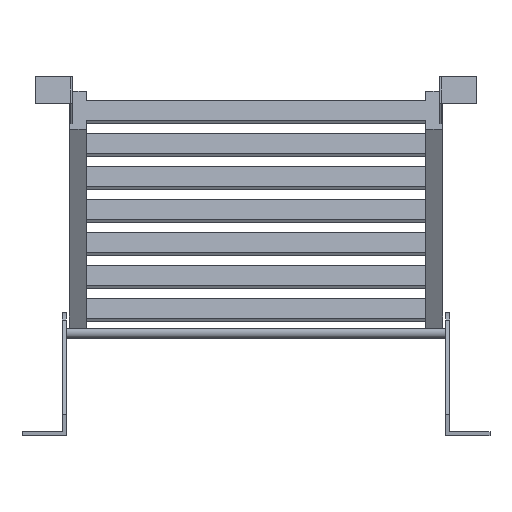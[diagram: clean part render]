
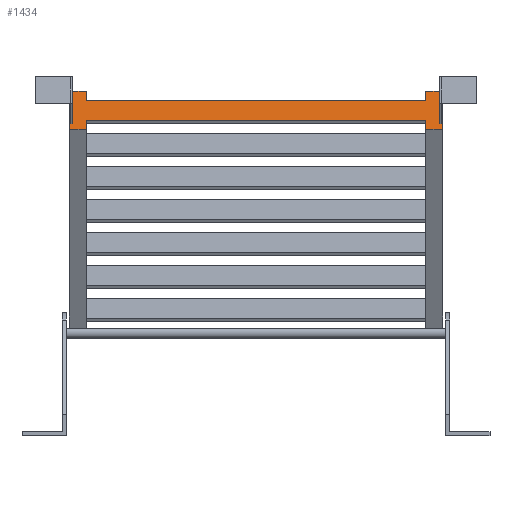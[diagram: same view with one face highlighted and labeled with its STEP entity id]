
A CAD part, front view. The second image highlights one B-rep face of the part: STEP entity #1434.
In plain terms, the highlighted planar face has unit normal (0, -0.985, 0.174).
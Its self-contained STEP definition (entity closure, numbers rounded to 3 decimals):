
#433=DIRECTION('',(1.,0.,0.));
#434=VECTOR('',#433,500.);
#435=CARTESIAN_POINT('',(-250.,-1558.003,464.863));
#436=LINE('',#435,#434);
#441=DIRECTION('',(0.,0.174,0.985));
#442=VECTOR('',#441,13.5);
#443=CARTESIAN_POINT('',(-250.,-1552.794,494.408));
#444=LINE('',#443,#442);
#445=DIRECTION('',(0.,-0.174,-0.985));
#446=VECTOR('',#445,13.5);
#447=CARTESIAN_POINT('',(250.,-1550.45,507.703));
#448=LINE('',#447,#446);
#449=DIRECTION('',(-1.,0.,0.));
#450=VECTOR('',#449,25.);
#451=CARTESIAN_POINT('',(275.,-1550.45,507.703));
#452=LINE('',#451,#450);
#453=DIRECTION('',(0.,0.174,0.985));
#454=VECTOR('',#453,57.);
#455=CARTESIAN_POINT('',(275.,-1560.348,451.568));
#456=LINE('',#455,#454);
#457=DIRECTION('',(1.,0.,0.));
#458=VECTOR('',#457,25.);
#459=CARTESIAN_POINT('',(250.,-1560.348,451.568));
#460=LINE('',#459,#458);
#461=DIRECTION('',(0.,-0.174,-0.985));
#462=VECTOR('',#461,13.5);
#463=CARTESIAN_POINT('',(250.,-1558.003,464.863));
#464=LINE('',#463,#462);
#465=DIRECTION('',(0.,0.174,0.985));
#466=VECTOR('',#465,13.5);
#467=CARTESIAN_POINT('',(-250.,-1560.348,451.568));
#468=LINE('',#467,#466);
#469=DIRECTION('',(1.,0.,0.));
#470=VECTOR('',#469,25.);
#471=CARTESIAN_POINT('',(-275.,-1560.348,451.568));
#472=LINE('',#471,#470);
#473=DIRECTION('',(0.,-0.174,-0.985));
#474=VECTOR('',#473,57.);
#475=CARTESIAN_POINT('',(-275.,-1550.45,507.703));
#476=LINE('',#475,#474);
#477=DIRECTION('',(-1.,0.,0.));
#478=VECTOR('',#477,25.);
#479=CARTESIAN_POINT('',(-250.,-1550.45,507.703));
#480=LINE('',#479,#478);
#481=DIRECTION('',(1.,0.,0.));
#482=VECTOR('',#481,2.);
#483=CARTESIAN_POINT('',(-273.,-1558.872,459.939));
#484=LINE('',#483,#482);
#485=DIRECTION('',(0.,0.174,0.985));
#486=VECTOR('',#485,40.);
#487=CARTESIAN_POINT('',(-271.,-1558.872,459.939));
#488=LINE('',#487,#486);
#489=DIRECTION('',(1.,0.,0.));
#490=VECTOR('',#489,2.);
#491=CARTESIAN_POINT('',(-273.,-1551.926,499.332));
#492=LINE('',#491,#490);
#493=DIRECTION('',(0.,0.174,0.985));
#494=VECTOR('',#493,40.);
#495=CARTESIAN_POINT('',(-273.,-1558.872,459.939));
#496=LINE('',#495,#494);
#497=DIRECTION('',(1.,0.,0.));
#498=VECTOR('',#497,2.);
#499=CARTESIAN_POINT('',(271.,-1558.872,459.939));
#500=LINE('',#499,#498);
#501=DIRECTION('',(0.,0.174,0.985));
#502=VECTOR('',#501,40.);
#503=CARTESIAN_POINT('',(273.,-1558.872,459.939));
#504=LINE('',#503,#502);
#505=DIRECTION('',(1.,0.,0.));
#506=VECTOR('',#505,2.);
#507=CARTESIAN_POINT('',(271.,-1551.926,499.332));
#508=LINE('',#507,#506);
#509=DIRECTION('',(0.,0.174,0.985));
#510=VECTOR('',#509,40.);
#511=CARTESIAN_POINT('',(271.,-1558.872,459.939));
#512=LINE('',#511,#510);
#517=DIRECTION('',(1.,0.,0.));
#518=VECTOR('',#517,500.);
#519=CARTESIAN_POINT('',(-250.,-1552.794,494.408));
#520=LINE('',#519,#518);
#705=CARTESIAN_POINT('',(-250.,-1550.45,507.703));
#706=CARTESIAN_POINT('',(-275.,-1550.45,507.703));
#707=VERTEX_POINT('',#705);
#708=VERTEX_POINT('',#706);
#709=CARTESIAN_POINT('',(-275.,-1560.348,451.568));
#710=CARTESIAN_POINT('',(-250.,-1560.348,451.568));
#711=VERTEX_POINT('',#709);
#712=VERTEX_POINT('',#710);
#713=CARTESIAN_POINT('',(275.,-1560.348,451.568));
#714=CARTESIAN_POINT('',(275.,-1550.45,507.703));
#715=VERTEX_POINT('',#713);
#716=VERTEX_POINT('',#714);
#717=CARTESIAN_POINT('',(250.,-1560.348,451.568));
#718=VERTEX_POINT('',#717);
#719=CARTESIAN_POINT('',(250.,-1550.45,507.703));
#720=VERTEX_POINT('',#719);
#817=CARTESIAN_POINT('',(-250.,-1558.003,464.863));
#819=VERTEX_POINT('',#817);
#821=CARTESIAN_POINT('',(-250.,-1552.794,494.408));
#823=VERTEX_POINT('',#821);
#825=CARTESIAN_POINT('',(250.,-1558.003,464.863));
#827=VERTEX_POINT('',#825);
#829=CARTESIAN_POINT('',(250.,-1552.794,494.408));
#831=VERTEX_POINT('',#829);
#849=CARTESIAN_POINT('',(-273.,-1558.872,459.939));
#850=CARTESIAN_POINT('',(-271.,-1558.872,459.939));
#851=VERTEX_POINT('',#849);
#852=VERTEX_POINT('',#850);
#853=CARTESIAN_POINT('',(-273.,-1551.926,499.332));
#854=CARTESIAN_POINT('',(-271.,-1551.926,499.332));
#855=VERTEX_POINT('',#853);
#856=VERTEX_POINT('',#854);
#873=CARTESIAN_POINT('',(271.,-1558.872,459.939));
#874=CARTESIAN_POINT('',(273.,-1558.872,459.939));
#875=VERTEX_POINT('',#873);
#876=VERTEX_POINT('',#874);
#877=CARTESIAN_POINT('',(271.,-1551.926,499.332));
#878=CARTESIAN_POINT('',(273.,-1551.926,499.332));
#879=VERTEX_POINT('',#877);
#880=VERTEX_POINT('',#878);
#1388=CARTESIAN_POINT('',(0.,-1590.52,280.452));
#1389=DIRECTION('',(0.,0.985,-0.174));
#1390=DIRECTION('',(1.,0.,0.));
#1391=AXIS2_PLACEMENT_3D('',#1388,#1389,#1390);
#1392=PLANE('',#1391);
#1393=ORIENTED_EDGE('',*,*,#907,.F.);
#1395=ORIENTED_EDGE('',*,*,#1394,.T.);
#1396=ORIENTED_EDGE('',*,*,#1051,.F.);
#1398=ORIENTED_EDGE('',*,*,#1397,.F.);
#1400=ORIENTED_EDGE('',*,*,#1399,.F.);
#1402=ORIENTED_EDGE('',*,*,#1401,.F.);
#1403=ORIENTED_EDGE('',*,*,#1043,.F.);
#1404=ORIENTED_EDGE('',*,*,#1381,.F.);
#1405=ORIENTED_EDGE('',*,*,#915,.F.);
#1407=ORIENTED_EDGE('',*,*,#1406,.F.);
#1409=ORIENTED_EDGE('',*,*,#1408,.F.);
#1411=ORIENTED_EDGE('',*,*,#1410,.F.);
#1412=EDGE_LOOP('',(#1393,#1395,#1396,#1398,#1400,#1402,#1403,#1404,#1405,#1407,
#1409,#1411));
#1413=FACE_OUTER_BOUND('',#1412,.F.);
#1415=ORIENTED_EDGE('',*,*,#1414,.T.);
#1417=ORIENTED_EDGE('',*,*,#1416,.T.);
#1419=ORIENTED_EDGE('',*,*,#1418,.F.);
#1421=ORIENTED_EDGE('',*,*,#1420,.F.);
#1422=EDGE_LOOP('',(#1415,#1417,#1419,#1421));
#1423=FACE_BOUND('',#1422,.F.);
#1425=ORIENTED_EDGE('',*,*,#1424,.T.);
#1427=ORIENTED_EDGE('',*,*,#1426,.T.);
#1429=ORIENTED_EDGE('',*,*,#1428,.F.);
#1431=ORIENTED_EDGE('',*,*,#1430,.F.);
#1432=EDGE_LOOP('',(#1425,#1427,#1429,#1431));
#1433=FACE_BOUND('',#1432,.F.);
#907=EDGE_CURVE('',#823,#707,#444,.T.);
#915=EDGE_CURVE('',#712,#819,#468,.T.);
#1043=EDGE_CURVE('',#827,#718,#464,.T.);
#1051=EDGE_CURVE('',#720,#831,#448,.T.);
#1381=EDGE_CURVE('',#819,#827,#436,.T.);
#1394=EDGE_CURVE('',#823,#831,#520,.T.);
#1397=EDGE_CURVE('',#716,#720,#452,.T.);
#1399=EDGE_CURVE('',#715,#716,#456,.T.);
#1401=EDGE_CURVE('',#718,#715,#460,.T.);
#1406=EDGE_CURVE('',#711,#712,#472,.T.);
#1408=EDGE_CURVE('',#708,#711,#476,.T.);
#1410=EDGE_CURVE('',#707,#708,#480,.T.);
#1414=EDGE_CURVE('',#851,#852,#484,.T.);
#1416=EDGE_CURVE('',#852,#856,#488,.T.);
#1418=EDGE_CURVE('',#855,#856,#492,.T.);
#1420=EDGE_CURVE('',#851,#855,#496,.T.);
#1424=EDGE_CURVE('',#875,#876,#500,.T.);
#1426=EDGE_CURVE('',#876,#880,#504,.T.);
#1428=EDGE_CURVE('',#879,#880,#508,.T.);
#1430=EDGE_CURVE('',#875,#879,#512,.T.);
#1434=ADVANCED_FACE('',(#1413,#1423,#1433),#1392,.F.);
